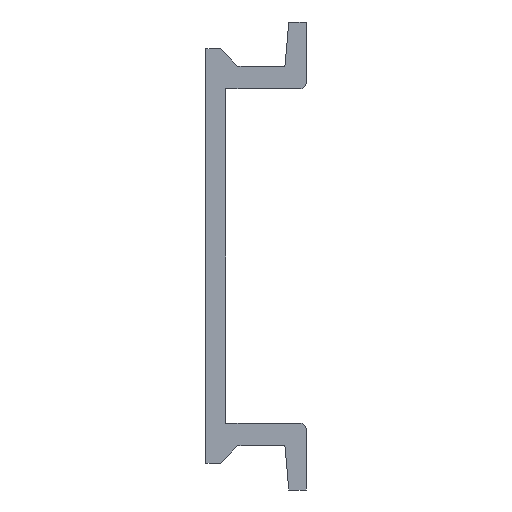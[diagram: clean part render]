
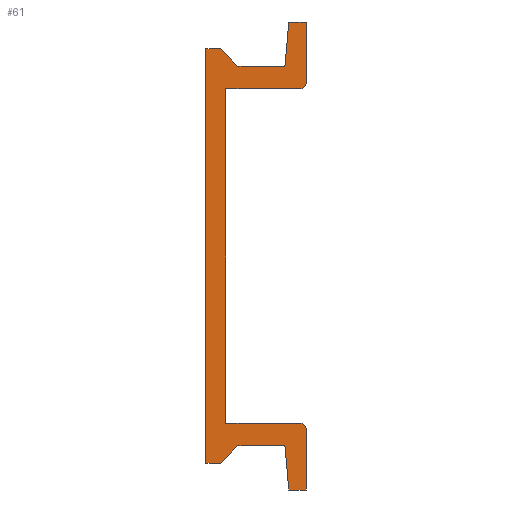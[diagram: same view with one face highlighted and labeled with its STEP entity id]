
A CAD part, left-side view. The second image highlights one B-rep face of the part: STEP entity #61.
In plain terms, the highlighted planar face has unit normal (-1, 0, 0).
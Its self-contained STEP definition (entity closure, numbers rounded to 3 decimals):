
#61=ADVANCED_FACE('',(#331),#330,.F.);
#330=PLANE('',#848);
#331=FACE_OUTER_BOUND('',#849,.T.);
#845=CARTESIAN_POINT('',(0.,-8.25,21.));
#846=DIRECTION('',(1.,0.,0.));
#847=DIRECTION('',(0.,0.,-1.));
#848=AXIS2_PLACEMENT_3D('',#845,#846,#847);
#849=EDGE_LOOP('',(#1218,#1219,#1220,#1221,#1222,#1223,#1224,#1225,#1226,#1227,#1228,#1229,#1230,#1231,#1232,#1233,#1234,#1235));
#1218=ORIENTED_EDGE('',*,*,#1395,.T.);
#1219=ORIENTED_EDGE('',*,*,#1399,.T.);
#1220=ORIENTED_EDGE('',*,*,#1523,.T.);
#1221=ORIENTED_EDGE('',*,*,#1520,.T.);
#1222=ORIENTED_EDGE('',*,*,#1517,.T.);
#1223=ORIENTED_EDGE('',*,*,#1514,.T.);
#1224=ORIENTED_EDGE('',*,*,#1511,.T.);
#1225=ORIENTED_EDGE('',*,*,#1508,.T.);
#1226=ORIENTED_EDGE('',*,*,#1505,.T.);
#1227=ORIENTED_EDGE('',*,*,#1502,.T.);
#1228=ORIENTED_EDGE('',*,*,#1461,.T.);
#1229=ORIENTED_EDGE('',*,*,#1458,.T.);
#1230=ORIENTED_EDGE('',*,*,#1455,.T.);
#1231=ORIENTED_EDGE('',*,*,#1452,.T.);
#1232=ORIENTED_EDGE('',*,*,#1449,.T.);
#1233=ORIENTED_EDGE('',*,*,#1446,.T.);
#1234=ORIENTED_EDGE('',*,*,#1443,.T.);
#1235=ORIENTED_EDGE('',*,*,#1440,.T.);
#1395=EDGE_CURVE('',#1610,#1611,#1612,.T.);
#1399=EDGE_CURVE('',#1611,#1638,#1639,.T.);
#1440=EDGE_CURVE('',#1923,#1610,#1924,.T.);
#1443=EDGE_CURVE('',#1943,#1923,#1944,.T.);
#1446=EDGE_CURVE('',#1963,#1943,#1964,.T.);
#1449=EDGE_CURVE('',#1983,#1963,#1984,.T.);
#1452=EDGE_CURVE('',#2003,#1983,#2004,.T.);
#1455=EDGE_CURVE('',#2023,#2003,#2024,.T.);
#1458=EDGE_CURVE('',#2043,#2023,#2044,.T.);
#1461=EDGE_CURVE('',#2063,#2043,#2064,.T.);
#1502=EDGE_CURVE('',#2348,#2063,#2349,.T.);
#1505=EDGE_CURVE('',#2368,#2348,#2369,.T.);
#1508=EDGE_CURVE('',#2388,#2368,#2389,.T.);
#1511=EDGE_CURVE('',#2408,#2388,#2409,.T.);
#1514=EDGE_CURVE('',#2428,#2408,#2429,.T.);
#1517=EDGE_CURVE('',#2448,#2428,#2449,.T.);
#1520=EDGE_CURVE('',#2468,#2448,#2469,.T.);
#1523=EDGE_CURVE('',#1638,#2468,#2488,.T.);
#1610=VERTEX_POINT('',#2751);
#1611=VERTEX_POINT('',#2752);
#1612=LINE('',#2753,#2754);
#1638=VERTEX_POINT('',#2767);
#1639=LINE('',#2768,#2769);
#1923=VERTEX_POINT('',#2948);
#1924=CIRCLE('',#2952,0.5);
#1943=VERTEX_POINT('',#2961);
#1944=LINE('',#2962,#2963);
#1963=VERTEX_POINT('',#2972);
#1964=LINE('',#2973,#2974);
#1983=VERTEX_POINT('',#2983);
#1984=LINE('',#2984,#2985);
#2003=VERTEX_POINT('',#2994);
#2004=LINE('',#2995,#2996);
#2023=VERTEX_POINT('',#3005);
#2024=LINE('',#3006,#3007);
#2043=VERTEX_POINT('',#3016);
#2044=LINE('',#3017,#3018);
#2063=VERTEX_POINT('',#3027);
#2064=LINE('',#3028,#3029);
#2348=VERTEX_POINT('',#3208);
#2349=LINE('',#3209,#3210);
#2368=VERTEX_POINT('',#3219);
#2369=LINE('',#3220,#3221);
#2388=VERTEX_POINT('',#3230);
#2389=LINE('',#3231,#3232);
#2408=VERTEX_POINT('',#3241);
#2409=LINE('',#3242,#3243);
#2428=VERTEX_POINT('',#3252);
#2429=LINE('',#3253,#3254);
#2448=VERTEX_POINT('',#3263);
#2449=LINE('',#3264,#3265);
#2468=VERTEX_POINT('',#3274);
#2469=CIRCLE('',#3278,0.5);
#2488=LINE('',#3287,#3288);
#2751=CARTESIAN_POINT('',(0.,-7.,-12.5));
#2752=CARTESIAN_POINT('',(0.,-1.5,-12.5));
#2753=CARTESIAN_POINT('',(0.,-7.,-12.5));
#2754=VECTOR('',#2755,5.5);
#2755=DIRECTION('',(0.,1.,0.));
#2767=CARTESIAN_POINT('',(0.,-1.5,12.5));
#2768=CARTESIAN_POINT('',(0.,-1.5,-12.5));
#2769=VECTOR('',#2770,25.);
#2770=DIRECTION('',(0.,0.,1.));
#2948=CARTESIAN_POINT('',(0.,-7.5,-13.));
#2949=CARTESIAN_POINT('',(0.,-7.,-13.));
#2950=DIRECTION('',(-1.,0.,0.));
#2951=DIRECTION('',(0.,0.,1.));
#2952=AXIS2_PLACEMENT_3D('',#2949,#2950,#2951);
#2961=CARTESIAN_POINT('',(0.,-7.5,-17.5));
#2962=CARTESIAN_POINT('',(0.,-7.5,-17.5));
#2963=VECTOR('',#2964,4.5);
#2964=DIRECTION('',(0.,0.,1.));
#2972=CARTESIAN_POINT('',(0.,-6.2,-17.5));
#2973=CARTESIAN_POINT('',(0.,-6.2,-17.5));
#2974=VECTOR('',#2975,1.3);
#2975=DIRECTION('',(0.,-1.,0.));
#2983=CARTESIAN_POINT('',(0.,-5.911,-14.2));
#2984=CARTESIAN_POINT('',(0.,-5.911,-14.2));
#2985=VECTOR('',#2986,3.313);
#2986=DIRECTION('',(0.,-0.087,-0.996));
#2994=CARTESIAN_POINT('',(0.,-2.4,-14.2));
#2995=CARTESIAN_POINT('',(0.,-2.4,-14.2));
#2996=VECTOR('',#2997,3.511);
#2997=DIRECTION('',(0.,-1.,0.));
#3005=CARTESIAN_POINT('',(0.,-1.1,-15.5));
#3006=CARTESIAN_POINT('',(0.,-1.1,-15.5));
#3007=VECTOR('',#3008,1.838);
#3008=DIRECTION('',(0.,-0.707,0.707));
#3016=CARTESIAN_POINT('',(0.,0.,-15.5));
#3017=CARTESIAN_POINT('',(0.,0.,-15.5));
#3018=VECTOR('',#3019,1.1);
#3019=DIRECTION('',(0.,-1.,0.));
#3027=CARTESIAN_POINT('',(0.,0.,15.5));
#3028=CARTESIAN_POINT('',(0.,0.,15.5));
#3029=VECTOR('',#3030,31.);
#3030=DIRECTION('',(0.,0.,-1.));
#3208=CARTESIAN_POINT('',(0.,-1.1,15.5));
#3209=CARTESIAN_POINT('',(0.,-1.1,15.5));
#3210=VECTOR('',#3211,1.1);
#3211=DIRECTION('',(0.,1.,0.));
#3219=CARTESIAN_POINT('',(0.,-2.4,14.2));
#3220=CARTESIAN_POINT('',(0.,-2.4,14.2));
#3221=VECTOR('',#3222,1.838);
#3222=DIRECTION('',(0.,0.707,0.707));
#3230=CARTESIAN_POINT('',(0.,-5.911,14.2));
#3231=CARTESIAN_POINT('',(0.,-5.911,14.2));
#3232=VECTOR('',#3233,3.511);
#3233=DIRECTION('',(0.,1.,0.));
#3241=CARTESIAN_POINT('',(0.,-6.2,17.5));
#3242=CARTESIAN_POINT('',(0.,-6.2,17.5));
#3243=VECTOR('',#3244,3.313);
#3244=DIRECTION('',(0.,0.087,-0.996));
#3252=CARTESIAN_POINT('',(0.,-7.5,17.5));
#3253=CARTESIAN_POINT('',(0.,-7.5,17.5));
#3254=VECTOR('',#3255,1.3);
#3255=DIRECTION('',(0.,1.,0.));
#3263=CARTESIAN_POINT('',(0.,-7.5,13.));
#3264=CARTESIAN_POINT('',(0.,-7.5,13.));
#3265=VECTOR('',#3266,4.5);
#3266=DIRECTION('',(0.,0.,1.));
#3274=CARTESIAN_POINT('',(0.,-7.,12.5));
#3275=CARTESIAN_POINT('',(0.,-7.,13.));
#3276=DIRECTION('',(-1.,0.,0.));
#3277=DIRECTION('',(0.,0.,1.));
#3278=AXIS2_PLACEMENT_3D('',#3275,#3276,#3277);
#3287=CARTESIAN_POINT('',(0.,-1.5,12.5));
#3288=VECTOR('',#3289,5.5);
#3289=DIRECTION('',(0.,-1.,0.));
